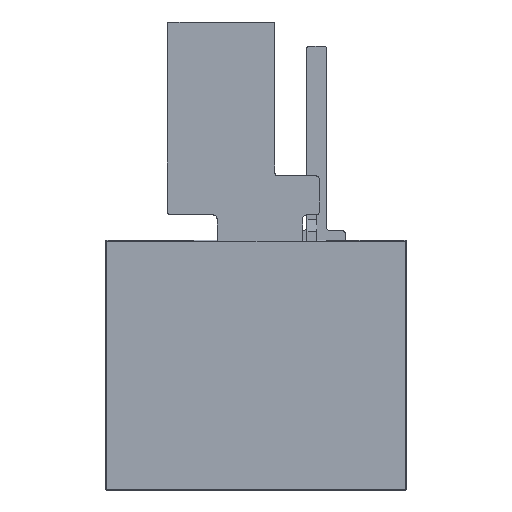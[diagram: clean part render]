
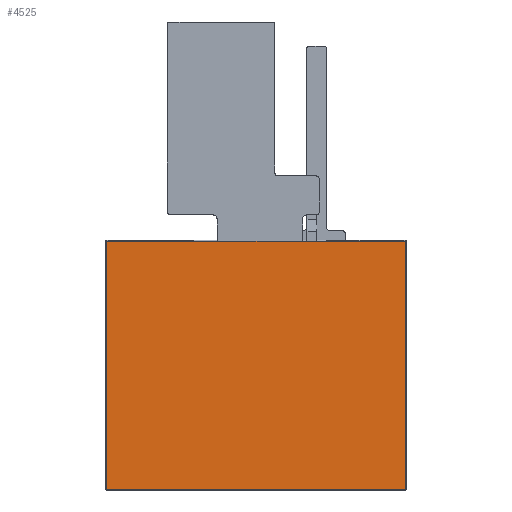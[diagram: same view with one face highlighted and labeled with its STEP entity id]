
A CAD part, front view. The second image highlights one B-rep face of the part: STEP entity #4525.
In plain terms, the highlighted planar face has unit normal (0, -1, 0).
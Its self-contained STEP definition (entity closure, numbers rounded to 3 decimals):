
#140 = ORIENTED_EDGE ( 'NONE', *, *, #6838, .F. ) ;
#301 = DIRECTION ( 'NONE',  ( 0., 0., 1. ) ) ;
#1012 = CARTESIAN_POINT ( 'NONE',  ( 0.2, 0., -32.744 ) ) ;
#1326 = AXIS2_PLACEMENT_3D ( 'NONE', #3523, #2755, #7798 ) ;
#1353 = EDGE_CURVE ( 'NONE', #5184, #5687, #7616, .T. ) ;
#1460 = LINE ( 'NONE', #1994, #6887 ) ;
#1576 = VERTEX_POINT ( 'NONE', #2811 ) ;
#1585 = AXIS2_PLACEMENT_3D ( 'NONE', #5748, #4428, #7565 ) ;
#1663 = CARTESIAN_POINT ( 'NONE',  ( 0.25, 0., -63.6 ) ) ;
#1736 = LINE ( 'NONE', #1012, #3635 ) ;
#1768 = CIRCLE ( 'NONE', #4478, 0.05 ) ;
#1832 = ORIENTED_EDGE ( 'NONE', *, *, #1353, .F. ) ;
#1890 = EDGE_CURVE ( 'NONE', #3254, #3331, #1768, .T. ) ;
#1994 = CARTESIAN_POINT ( 'NONE',  ( 37.866, 0., -63.6 ) ) ;
#2187 = VECTOR ( 'NONE', #7056, 1000. ) ;
#2195 = CARTESIAN_POINT ( 'NONE',  ( 76.55, 0., -63.55 ) ) ;
#2586 = CARTESIAN_POINT ( 'NONE',  ( 76.6, 0., -32.744 ) ) ;
#2661 = CARTESIAN_POINT ( 'NONE',  ( 76.6, 0., -63.55 ) ) ;
#2755 = DIRECTION ( 'NONE',  ( 0., 1., 0. ) ) ;
#2811 = CARTESIAN_POINT ( 'NONE',  ( 0.2, 0., -0.25 ) ) ;
#3149 = EDGE_CURVE ( 'NONE', #1576, #5184, #4804, .T. ) ;
#3254 = VERTEX_POINT ( 'NONE', #1663 ) ;
#3331 = VERTEX_POINT ( 'NONE', #4836 ) ;
#3370 = VECTOR ( 'NONE', #6152, 1000. ) ;
#3396 = CARTESIAN_POINT ( 'NONE',  ( 0.25, 0., -0.2 ) ) ;
#3523 = CARTESIAN_POINT ( 'NONE',  ( 0.25, 0., -0.25 ) ) ;
#3635 = VECTOR ( 'NONE', #7789, 1000. ) ;
#3663 = DIRECTION ( 'NONE',  ( 0., 0., 1. ) ) ;
#3668 = CARTESIAN_POINT ( 'NONE',  ( 76.55, 0., -63.6 ) ) ;
#3759 = AXIS2_PLACEMENT_3D ( 'NONE', #2195, #5225, #301 ) ;
#3956 = ORIENTED_EDGE ( 'NONE', *, *, #6363, .F. ) ;
#3996 = ORIENTED_EDGE ( 'NONE', *, *, #3149, .F. ) ;
#4193 = FACE_OUTER_BOUND ( 'NONE', #7575, .T. ) ;
#4243 = ORIENTED_EDGE ( 'NONE', *, *, #1890, .F. ) ;
#4428 = DIRECTION ( 'NONE',  ( 0., 1., 0. ) ) ;
#4478 = AXIS2_PLACEMENT_3D ( 'NONE', #6737, #7419, #6653 ) ;
#4514 = CARTESIAN_POINT ( 'NONE',  ( 37.866, 0., -0.2 ) ) ;
#4525 = ADVANCED_FACE ( 'NONE', ( #4193 ), #7292, .F. ) ;
#4754 = EDGE_CURVE ( 'NONE', #5617, #7491, #5298, .T. ) ;
#4804 = CIRCLE ( 'NONE', #1326, 0.05 ) ;
#4830 = CARTESIAN_POINT ( 'NONE',  ( 37.866, 0., -32.744 ) ) ;
#4836 = CARTESIAN_POINT ( 'NONE',  ( 0.2, 0., -63.55 ) ) ;
#4939 = LINE ( 'NONE', #2586, #3370 ) ;
#5075 = CIRCLE ( 'NONE', #1585, 0.05 ) ;
#5184 = VERTEX_POINT ( 'NONE', #3396 ) ;
#5225 = DIRECTION ( 'NONE',  ( 0., 1., 0. ) ) ;
#5289 = CARTESIAN_POINT ( 'NONE',  ( 76.55, 0., -0.2 ) ) ;
#5298 = CIRCLE ( 'NONE', #3759, 0.05 ) ;
#5355 = EDGE_CURVE ( 'NONE', #7686, #5617, #4939, .T. ) ;
#5583 = ORIENTED_EDGE ( 'NONE', *, *, #5355, .F. ) ;
#5617 = VERTEX_POINT ( 'NONE', #2661 ) ;
#5687 = VERTEX_POINT ( 'NONE', #5289 ) ;
#5695 = EDGE_CURVE ( 'NONE', #3331, #1576, #1736, .T. ) ;
#5748 = CARTESIAN_POINT ( 'NONE',  ( 76.55, 0., -0.25 ) ) ;
#5829 = ORIENTED_EDGE ( 'NONE', *, *, #4754, .F. ) ;
#6152 = DIRECTION ( 'NONE',  ( 0., 0., -1. ) ) ;
#6363 = EDGE_CURVE ( 'NONE', #5687, #7686, #5075, .T. ) ;
#6459 = AXIS2_PLACEMENT_3D ( 'NONE', #4830, #6610, #3663 ) ;
#6610 = DIRECTION ( 'NONE',  ( 0., 1., 0. ) ) ;
#6653 = DIRECTION ( 'NONE',  ( 0., 0., 1. ) ) ;
#6737 = CARTESIAN_POINT ( 'NONE',  ( 0.25, 0., -63.55 ) ) ;
#6838 = EDGE_CURVE ( 'NONE', #7491, #3254, #1460, .T. ) ;
#6887 = VECTOR ( 'NONE', #7481, 1000. ) ;
#7012 = CARTESIAN_POINT ( 'NONE',  ( 76.6, 0., -0.25 ) ) ;
#7056 = DIRECTION ( 'NONE',  ( 1., 0., 0. ) ) ;
#7152 = ORIENTED_EDGE ( 'NONE', *, *, #5695, .F. ) ;
#7292 = PLANE ( 'NONE',  #6459 ) ;
#7419 = DIRECTION ( 'NONE',  ( 0., 1., 0. ) ) ;
#7481 = DIRECTION ( 'NONE',  ( -1., 0., 0. ) ) ;
#7491 = VERTEX_POINT ( 'NONE', #3668 ) ;
#7565 = DIRECTION ( 'NONE',  ( 0., 0., 1. ) ) ;
#7575 = EDGE_LOOP ( 'NONE', ( #7152, #4243, #140, #5829, #5583, #3956, #1832, #3996 ) ) ;
#7616 = LINE ( 'NONE', #4514, #2187 ) ;
#7686 = VERTEX_POINT ( 'NONE', #7012 ) ;
#7789 = DIRECTION ( 'NONE',  ( 0., 0., 1. ) ) ;
#7798 = DIRECTION ( 'NONE',  ( 0., 0., 1. ) ) ;
